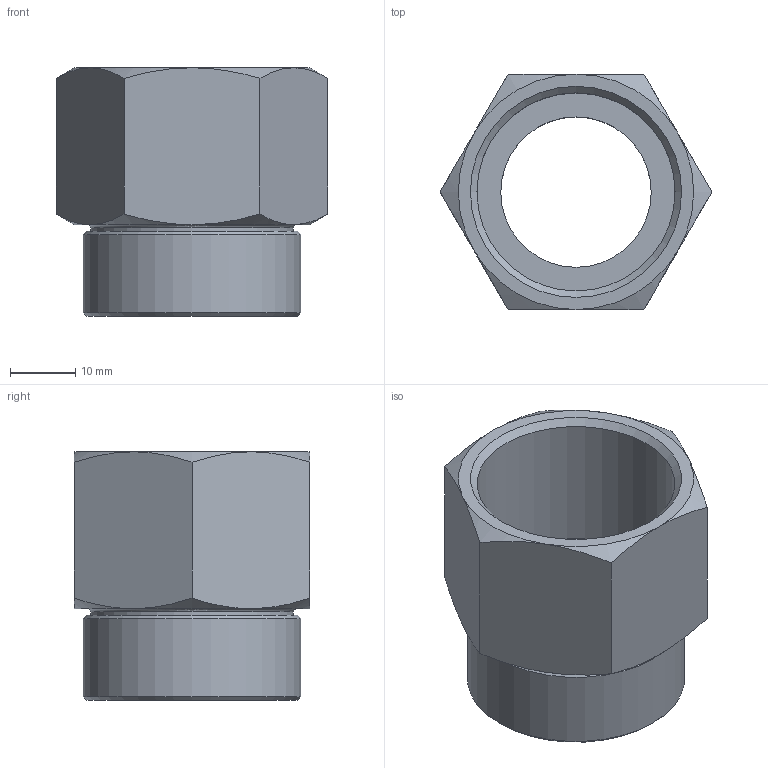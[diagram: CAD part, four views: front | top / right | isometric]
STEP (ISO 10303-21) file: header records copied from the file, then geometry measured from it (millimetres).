
FILE_DESCRIPTION((''),'2;1');
FILE_NAME('G:\Nirosan-Schmiedefeld\Technics\Public\Zeichnungen step\step Serie 9000\69370G11(1).stp','2013-06-19T13:26:31',('herberg'),(''),'Autodesk Inventor 2009','Autodesk Inventor 2009','');
FILE_SCHEMA(('AUTOMOTIVE_DESIGN { 1 0 10303 214 1 1 1 1 }'));
Length unit declared in the file: millimetre
Products named in the file (1): 69370G11(1)
Bounding box: 41.57 x 36 x 38 mm (x, y, z)
Volume: 16310.7 mm3; surface area: 9095.7 mm2
Topology: 1 solids, 1 shells, 31 faces, 63 edges, 37 vertices
Faces by surface type: cone 15, plane 10, bspline 4, cylinder 2
Full cylindrical faces by diameter (mm): 31 x1, 33.249 x1
Entity records: 824 total; most frequent: CARTESIAN_POINT 251, DIRECTION 110, ORIENTED_EDGE 108, EDGE_CURVE 54, AXIS2_PLACEMENT_3D 52, EDGE_LOOP 44, VERTEX_POINT 36, FACE_OUTER_BOUND 31
